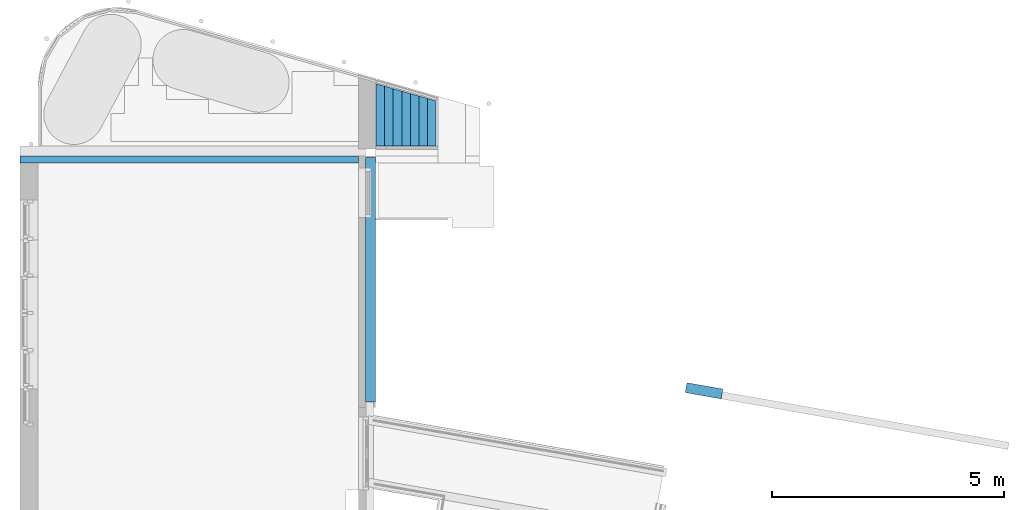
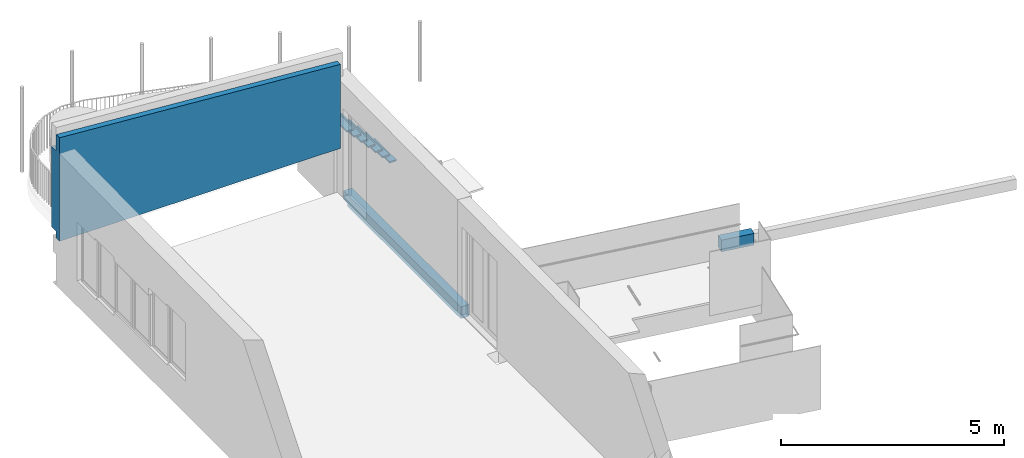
# One storey, part 5 of 10: 3 walls, 1 stair flight, 1 element without a shape of its own.
"""IFC2X3 building model written with IfcOpenShell, lengths in millimetres."""

from ifc_helpers import new_model, entity, si_unit, converted_unit, derived_unit, direction, frame, frame_2d, origin, place, context, subcontext, project, spatial, polyline, rectangle, outline, extrude, faceted_brep, material, material_list, layer, layer_set, layer_usage, type_object, element, aggregate, save


model = new_model("IFC2X3")

# Units and contexts
model_context = context("Model", 3, precision=0.01, world=origin(), true_north=direction((6.12303176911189e-17, 1.0)))
body_context = subcontext(model_context, "Body", "Model", "MODEL_VIEW")
ifc_project = project(units=[si_unit("LENGTHUNIT", "METRE", prefix="MILLI"), si_unit("AREAUNIT", "SQUARE_METRE"), si_unit("VOLUMEUNIT", "CUBIC_METRE"), converted_unit("PLANEANGLEUNIT", "DEGREE", entity("IfcRatioMeasure", 0.0174532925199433), si_unit("PLANEANGLEUNIT", "RADIAN"), dimensions=[0, 0, 0, 0, 0, 0, 0]), si_unit("MASSUNIT", "GRAM", prefix="KILO"), derived_unit("MASSDENSITYUNIT", [(si_unit("MASSUNIT", "GRAM", prefix="KILO"), 1), (si_unit("LENGTHUNIT", "METRE"), -3)]), derived_unit("MOMENTOFINERTIAUNIT", [(si_unit("LENGTHUNIT", "METRE"), 4)]), si_unit("TIMEUNIT", "SECOND"), si_unit("FREQUENCYUNIT", "HERTZ"), si_unit("THERMODYNAMICTEMPERATUREUNIT", "DEGREE_CELSIUS"), derived_unit("THERMALTRANSMITTANCEUNIT", [(si_unit("MASSUNIT", "GRAM", prefix="KILO"), 1), (si_unit("THERMODYNAMICTEMPERATUREUNIT", "KELVIN"), -1), (si_unit("TIMEUNIT", "SECOND"), -3)]), derived_unit("VOLUMETRICFLOWRATEUNIT", [(si_unit("LENGTHUNIT", "METRE"), 3), (si_unit("TIMEUNIT", "SECOND"), -1)]), si_unit("ELECTRICCURRENTUNIT", "AMPERE"), si_unit("ELECTRICVOLTAGEUNIT", "VOLT"), si_unit("POWERUNIT", "WATT"), si_unit("FORCEUNIT", "NEWTON", prefix="KILO"), si_unit("ILLUMINANCEUNIT", "LUX"), si_unit("LUMINOUSFLUXUNIT", "LUMEN"), si_unit("LUMINOUSINTENSITYUNIT", "CANDELA"), derived_unit("USERDEFINED", [(si_unit("MASSUNIT", "GRAM", prefix="KILO"), -1), (si_unit("LENGTHUNIT", "METRE"), -2), (si_unit("TIMEUNIT", "SECOND"), 3), (si_unit("LUMINOUSFLUXUNIT", "LUMEN"), 1)]), derived_unit("LINEARVELOCITYUNIT", [(si_unit("LENGTHUNIT", "METRE"), 1), (si_unit("TIMEUNIT", "SECOND"), -1)]), si_unit("PRESSUREUNIT", "PASCAL"), derived_unit("USERDEFINED", [(si_unit("LENGTHUNIT", "METRE"), -2), (si_unit("MASSUNIT", "GRAM", prefix="KILO"), 1), (si_unit("TIMEUNIT", "SECOND"), -2)]), derived_unit("LINEARFORCEUNIT", [(si_unit("MASSUNIT", "GRAM", prefix="KILO"), 1), (si_unit("LENGTHUNIT", "METRE"), 1), (si_unit("TIMEUNIT", "SECOND"), -2), (si_unit("LENGTHUNIT", "METRE"), -1)]), derived_unit("PLANARFORCEUNIT", [(si_unit("MASSUNIT", "GRAM", prefix="KILO"), 1), (si_unit("LENGTHUNIT", "METRE"), 1), (si_unit("TIMEUNIT", "SECOND"), -2), (si_unit("LENGTHUNIT", "METRE"), -2)])], contexts=[model_context])

# Site, building, storey
site_placement = place(None, origin())
site = spatial("IfcSite", under=ifc_project, at=site_placement, Name="<Kadaster Gemeente>;<Kadaster nummer>;<Kadaster sectie>", CompositionType="ELEMENT")
building_placement = place(site_placement, origin())
building = spatial("IfcBuilding", under=site, at=building_placement, Name="JRCZ Middelburg", CompositionType="ELEMENT")
storey_placement = place(building_placement, frame((0.0, 0.0, 3700.0)))
storey = spatial("IfcBuildingStorey", under=building, at=storey_placement, Name="02 tweede verdieping", CompositionType="ELEMENT", Elevation=3700.0)

# Walls
ifc_material_1 = material(Name="gevel antraciet")
ifc_layer_1 = layer(ifc_material_1, 8.0)
ifc_material_2 = material(Name="ISR_Luchtspouw")
ifc_layer_2 = layer(ifc_material_2, 35.0)
ifc_layer_3 = layer(ifc_material_2, 35.0)
ifc_material_3 = material(Name="RBM_n7_isolatie_hsb_270")
ifc_layer_4 = layer(ifc_material_3, 138.0)
ifc_layer_set_1 = layer_set([ifc_layer_1, ifc_layer_2, ifc_layer_3, ifc_layer_4], Name="Basic Wall:21_RBM_WA_dakrand/pas strook_rockpanel")
wall_type_1 = type_object("IfcWallType", Name="Basic Wall:21_RBM_WA_dakrand/pas strook_rockpanel", PredefinedType="STANDARD", material=ifc_layer_set_1)
wall_1_placement = place(storey_placement, frame((17308.0, 24367.0, -355.0), z_axis=(0.0, 0.0, 1.0), x_axis=(0.0, -1.0, 0.0)))
element("IfcWall", 1, at=wall_1_placement, inside=storey, type_object=wall_type_1, Name="Basic Wall:21_RBM_WA_dakrand/pas strook_rockpanel", ObjectType="Basic Wall:21_RBM_WA_dakrand/pas strook_rockpanel", context=body_context, shape_type="Brep", body=[
    faceted_brep([(183.0, -108.0, 0.0), (5263.37661213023, -108.0, 0.0), (5263.37661213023, -108.0, 320.0), (0.0, -108.0, 320.0), (0.0, -108.0, 85.0), (183.0, -108.0, 85.0), (183.0, 108.0, 0.0), (183.0, 108.0, 85.0), (0.0, 108.0, 85.0), (0.0, 108.0, 320.0), (5263.37661213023, 108.0, 320.0), (5263.37661213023, 108.0, 0.0), (5263.37661213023, 60.5000000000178, 0.0), (5263.37661213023, -102.0, 0.0), (5263.37661213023, 60.5000000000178, 320.0), (5263.37661213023, -102.0, 320.0)], [[[0, 1, 2, 3, 4, 5]], [[6, 7, 8, 9, 10, 11]], [[1, 0, 6, 11, 12, 13]], [[2, 1, 13, 12, 11, 10, 14, 15]], [[3, 2, 15, 14, 10, 9]], [[4, 3, 9, 8]], [[4, 8, 7, 5]], [[0, 5, 7, 6]]]),
])
ifc_layer_usage = layer_usage(ifc_layer_set_1, "AXIS2", "NEGATIVE", 108.0)
wall_2_placement = place(storey_placement, frame((24098.1566121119, 19415.2200859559, -1055.0), z_axis=(0.0, 0.0, 1.0), x_axis=(0.984807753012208, -0.17364817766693, 0.0)))
element("IfcWallStandardCase", 2, at=wall_2_placement, inside=storey, type_object=wall_type_1, material=ifc_layer_usage, Name="Basic Wall:21_RBM_WA_dakrand/pas strook_rockpanel", ObjectType="Basic Wall:21_RBM_WA_dakrand/pas strook_rockpanel", context=body_context, shape_type="SweptSolid", body=[
    extrude(rectangle(XDim=784.14098151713, YDim=216.000000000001, at=frame_2d((392.070490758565, -2.70006239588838e-13), x_axis=(-1.0, 0.0))), origin(), (0.0, 0.0, 1.0), 320.0),
])
ifc_layer_5 = layer(ifc_material_1, 8.0)
ifc_layer_6 = layer(ifc_material_2, 35.0)
ifc_layer_7 = layer(ifc_material_2, 35.0)
ifc_layer_8 = layer(ifc_material_3, 270.0)
ifc_material_4 = material(Name="RBM_i4_multiplex_beplating")
ifc_layer_9 = layer(ifc_material_4, 18.0)
ifc_layer_set_2 = layer_set([ifc_layer_5, ifc_layer_6, ifc_layer_7, ifc_layer_8, ifc_layer_9], Name="Basic Wall:21_RBM_WA_hsb_270mm_ rockpanel")
wall_type_2 = type_object("IfcWallType", Name="Basic Wall:21_RBM_WA_hsb_270mm_ rockpanel", PredefinedType="STANDARD", material=ifc_layer_set_2)
wall_3_placement = place(storey_placement, frame((17050.0, 24433.0, 1250.0), z_axis=(0.0, 0.0, 1.0), x_axis=(-1.0, 0.0, 0.0)))
element("IfcWall", 3, at=wall_3_placement, inside=storey, type_object=wall_type_2, Name="Basic Wall:21_RBM_WA_hsb_270mm_ rockpanel", ObjectType="Basic Wall:21_RBM_WA_hsb_270mm_ rockpanel", context=body_context, shape_type="Brep", body=[
    faceted_brep([(7288.0, -183.0, 2392.89797168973), (0.0, -183.0, 1854.60205389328), (0.0, -183.0, 1846.33606714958), (0.0, -183.0, 0.0), (6900.0, -183.0, 0.0), (6900.0, -183.0, 180.0), (7288.0, -183.0, 180.0), (7288.0, 183.0, 0.0), (6900.0, 183.0, 0.0), (0.0, 183.0, 0.0), (0.0, 183.0, 2304.60205389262), (7288.0, 183.0, 2842.89797168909), (7288.0, 183.0, 2403.70877597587), (7288.0, 33.0, 2842.89797168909), (7288.0, 33.0, 2392.89797168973), (7288.0, 36.0, 180.0), (7288.0, 36.0, 0.0), (6900.0, 36.0, 0.0), (6900.0, 33.0, 0.0), (6900.0, -117.0, 0.0), (0.0, -117.0, 0.0), (0.0, 33.0, 0.0), (0.0, 33.0, 2304.60205389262), (0.0, 33.0, 1854.60205389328), (6900.0, 36.0, 180.0)], [[[0, 1, 2, 3, 4, 5, 6]], [[7, 8, 9, 10, 11, 12]], [[7, 12, 11, 13, 14, 0, 6, 15, 16]], [[9, 8, 7, 16, 17, 18, 19, 4, 3, 20, 21]], [[11, 10, 22, 13]], [[9, 21, 20, 3, 2, 1, 23, 22, 10]], [[23, 14, 13, 22]], [[14, 23, 1, 0]], [[17, 24, 5, 4, 19, 18]], [[24, 15, 6, 5]], [[15, 24, 17, 16]]]),
])

# Stair, stair flight
stair_placement = place(storey_placement, origin())
stair = element("IfcStair", 4, at=stair_placement, inside=storey, Name="Assembled Stair:Stair", ObjectType="Assembled Stair:Vluchttrap staal", ShapeType="STRAIGHT_RUN_STAIR")
ifc_material_5 = material(Name="<Unnamed>")
ifc_material_list = material_list([ifc_material_5, ifc_material_5, ifc_material_5, ifc_material_5, ifc_material_5, ifc_material_5, ifc_material_5])
stair_flight_type = type_object("IfcStairFlightType", Name="Non-Monolithic Run:40 mm persrooster", PredefinedType="NOTDEFINED")
stair_flight_placement = place(stair_placement, origin())
stair_flight = element("IfcStairFlight", 5, at=stair_flight_placement, type_object=stair_flight_type, material=ifc_material_list, Name="Assembled Stair:Stair:2870841 Run 1", ObjectType="Non-Monolithic Run:40 mm persrooster", NumberOfRiser=8, NumberOfTreads=7, RiserHeight=0.675306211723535, TreadLength=0.606955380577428, context=body_context, shape_type="SweptSolid", body=[
    extrude(outline(polyline([(-92.5000000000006, -498.147007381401), (92.5000000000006, -498.147007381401), (92.5000000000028, 471.622917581), (-92.4999999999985, 524.671097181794), (-92.5000000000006, -498.147007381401)])), frame((18625.8108304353, 25114.1470073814, 95.8333333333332)), (0.0, 0.0, 1.0), 40.0000000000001),
    extrude(outline(polyline([(-92.5000000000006, -524.671097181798), (92.5000000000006, -524.671097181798), (92.5000000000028, 498.147007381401), (-92.4999999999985, 551.195186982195), (-92.5000000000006, -524.671097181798)])), frame((18440.8108304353, 25140.6710971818, 301.666666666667)), (0.0, 0.0, 1.0), 40.0000000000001),
    extrude(outline(polyline([(-92.5000000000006, -551.195186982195), (92.5000000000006, -551.195186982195), (92.5000000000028, 524.671097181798), (-92.4999999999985, 577.719276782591), (-92.5000000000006, -551.195186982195)])), frame((18255.8108304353, 25167.1951869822, 507.5)), (0.0, 0.0, 1.0), 40.0000000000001),
    extrude(outline(polyline([(-92.5000000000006, -577.719276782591), (92.5000000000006, -577.719276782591), (92.5000000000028, 551.195186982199), (-92.4999999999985, 604.243366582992), (-92.5000000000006, -577.719276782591)])), frame((18070.8108304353, 25193.7192767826, 713.333333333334)), (0.0, 0.0, 1.0), 40.0000000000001),
    extrude(outline(polyline([(-92.4999999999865, -604.24336658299), (92.5000000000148, -604.24336658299), (92.4999999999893, 577.719276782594), (-92.5000000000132, 630.767456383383), (-92.4999999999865, -604.24336658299)])), frame((17885.8108304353, 25220.243366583, 919.166666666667)), (0.0, 0.0, 1.0), 40.0000000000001),
    extrude(outline(polyline([(-92.5000000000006, -630.767456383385), (92.5000000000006, -630.767456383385), (92.5000000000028, 604.243366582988), (-92.4999999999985, 657.291546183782), (-92.5000000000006, -630.767456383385)])), frame((17700.8108304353, 25246.7674563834, 1125.0)), (0.0, 0.0, 1.0), 40.0000000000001),
    extrude(outline(polyline([(-92.5000000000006, -657.291546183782), (92.5000000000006, -657.291546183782), (92.5000000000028, 630.767456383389), (-92.4999999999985, 683.815635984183), (-92.5000000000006, -657.291546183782)])), frame((17515.8108304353, 25273.2915461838, 1330.83333333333)), (0.0, 0.0, 1.0), 39.9999999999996),
])
aggregate(stair, [stair_flight])

save(model, "model.ifc")
